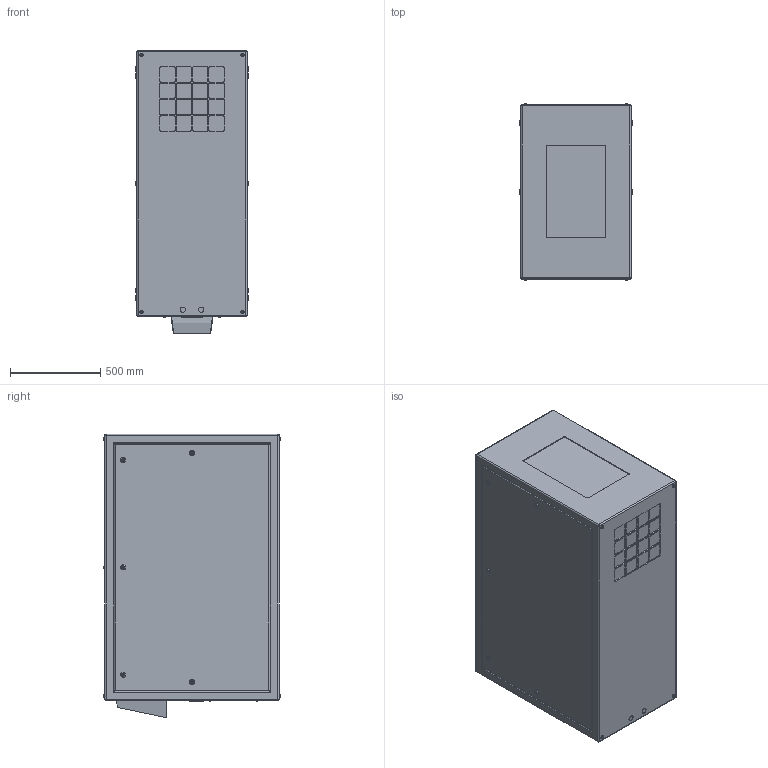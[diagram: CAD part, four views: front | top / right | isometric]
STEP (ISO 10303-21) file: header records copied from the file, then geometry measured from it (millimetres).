
FILE_DESCRIPTION (( 'STEP AP214' ), '1' );
FILE_NAME ('Cyclone 55.514.P R10.STEP', '2022-09-08T22:07:36', ( '' ), ( '' ), 'SwSTEP 2.0', 'SolidWorks 2020', '' );
FILE_SCHEMA (( 'AUTOMOTIVE_DESIGN' ));
Length unit declared in the file: inch
Products named in the file (1): Cyclone 55.514.P R10
Bounding box: 622.3 x 979.8 x 1568.45 mm (x, y, z)
Volume: 288606871.4 mm3; surface area: 10855720.6 mm2
Topology: 1 solids, 8 shells, 582 faces, 1356 edges, 868 vertices
Faces by surface type: plane 278, cylinder 244, torus 52, sphere 8
Entity records: 21605 total; most frequent: CARTESIAN_POINT 3343, DIRECTION 2958, ORIENTED_EDGE 2696, EDGE_CURVE 1348, AXIS2_PLACEMENT_3D 1123, VERTEX_POINT 868, VECTOR 712, LINE 712
